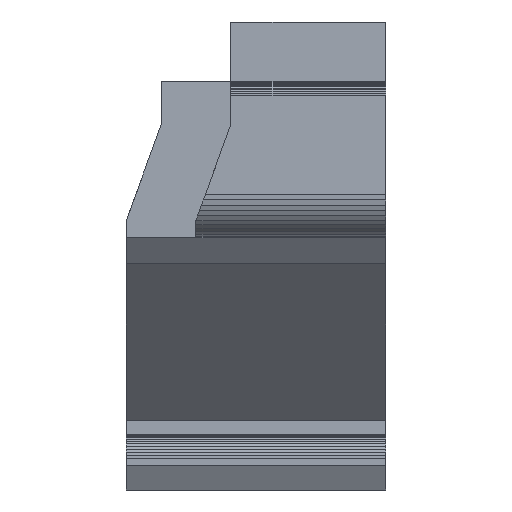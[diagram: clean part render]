
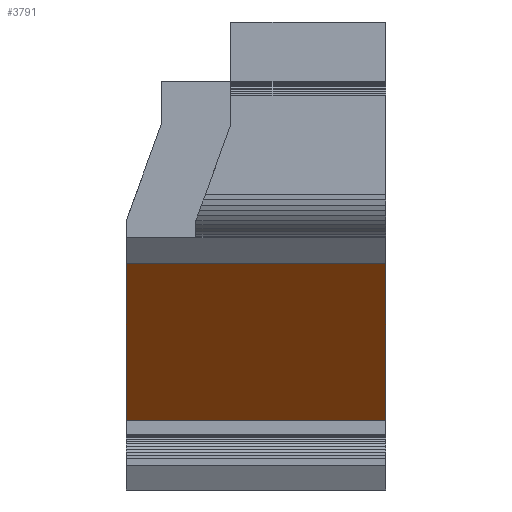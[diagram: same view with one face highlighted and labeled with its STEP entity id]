
A CAD part, front view. The second image highlights one B-rep face of the part: STEP entity #3791.
In plain terms, the highlighted planar face has unit normal (0, -0.707, -0.707).
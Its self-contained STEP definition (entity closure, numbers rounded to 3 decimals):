
#32 = PLANE('',#33);
#33 = AXIS2_PLACEMENT_3D('',#34,#35,#36);
#34 = CARTESIAN_POINT('',(15.,135.,-0.1));
#35 = DIRECTION('',(1.,0.,-0.));
#36 = DIRECTION('',(0.,0.,1.));
#861 = VERTEX_POINT('',#862);
#862 = CARTESIAN_POINT('',(15.,156.995,13.005));
#875 = PLANE('',#876);
#876 = AXIS2_PLACEMENT_3D('',#877,#878,#879);
#877 = CARTESIAN_POINT('',(-126.7,156.995,13.005));
#878 = DIRECTION('',(-0.,-0.777,-0.63));
#879 = DIRECTION('',(0.,-0.63,0.777));
#886 = EDGE_CURVE('',#861,#887,#889,.T.);
#887 = VERTEX_POINT('',#888);
#888 = CARTESIAN_POINT('',(15.,166.,4.));
#889 = SURFACE_CURVE('',#890,(#894,#900),.PCURVE_S1.);
#890 = LINE('',#891,#892);
#891 = CARTESIAN_POINT('',(15.,159.275,10.725));
#892 = VECTOR('',#893,1.);
#893 = DIRECTION('',(-0.,0.707,-0.707));
#894 = PCURVE('',#32,#895);
#895 = DEFINITIONAL_REPRESENTATION('',(#896),#899);
#896 = B_SPLINE_CURVE_WITH_KNOTS('',1,(#897,#898),.UNSPECIFIED.,.F.,.F.,
  (2,2),(-3.225,9.511),.PIECEWISE_BEZIER_KNOTS.);
#897 = CARTESIAN_POINT('',(13.105,-21.995));
#898 = CARTESIAN_POINT('',(4.1,-31.));
#899 = ( GEOMETRIC_REPRESENTATION_CONTEXT(2) 
PARAMETRIC_REPRESENTATION_CONTEXT() REPRESENTATION_CONTEXT('2D SPACE',''
  ) );
#900 = PCURVE('',#901,#906);
#901 = PLANE('',#902);
#902 = AXIS2_PLACEMENT_3D('',#903,#904,#905);
#903 = CARTESIAN_POINT('',(-126.7,166.,4.));
#904 = DIRECTION('',(-0.,-0.707,-0.707));
#905 = DIRECTION('',(0.,-0.707,0.707));
#906 = DEFINITIONAL_REPRESENTATION('',(#907),#910);
#907 = B_SPLINE_CURVE_WITH_KNOTS('',1,(#908,#909),.UNSPECIFIED.,.F.,.F.,
  (2,2),(-3.225,9.511),.PIECEWISE_BEZIER_KNOTS.);
#908 = CARTESIAN_POINT('',(12.735,-141.7));
#909 = CARTESIAN_POINT('',(0.,-141.7));
#910 = ( GEOMETRIC_REPRESENTATION_CONTEXT(2) 
PARAMETRIC_REPRESENTATION_CONTEXT() REPRESENTATION_CONTEXT('2D SPACE',''
  ) );
#927 = PLANE('',#928);
#928 = AXIS2_PLACEMENT_3D('',#929,#930,#931);
#929 = CARTESIAN_POINT('',(168.,166.,2.8));
#930 = DIRECTION('',(0.,-1.,0.));
#931 = DIRECTION('',(-1.,0.,0.));
#2348 = PLANE('',#2349);
#2349 = AXIS2_PLACEMENT_3D('',#2350,#2351,#2352);
#2350 = CARTESIAN_POINT('',(0.1,167.9,8.9));
#2351 = DIRECTION('',(-1.,0.,0.));
#2352 = DIRECTION('',(0.,-1.,0.));
#3752 = EDGE_CURVE('',#887,#3753,#3755,.T.);
#3753 = VERTEX_POINT('',#3754);
#3754 = CARTESIAN_POINT('',(0.1,166.,4.));
#3755 = SURFACE_CURVE('',#3756,(#3759,#3765),.PCURVE_S1.);
#3756 = B_SPLINE_CURVE_WITH_KNOTS('',1,(#3757,#3758),.UNSPECIFIED.,.F.,
  .F.,(2,2),(0.,1.),.PIECEWISE_BEZIER_KNOTS.);
#3757 = CARTESIAN_POINT('',(126.7,166.,4.));
#3758 = CARTESIAN_POINT('',(-126.7,166.,4.));
#3759 = PCURVE('',#927,#3760);
#3760 = DEFINITIONAL_REPRESENTATION('',(#3761),#3764);
#3761 = B_SPLINE_CURVE_WITH_KNOTS('',1,(#3762,#3763),.UNSPECIFIED.,.F.,
  .F.,(2,2),(0.,1.),.PIECEWISE_BEZIER_KNOTS.);
#3762 = CARTESIAN_POINT('',(41.3,-1.2));
#3763 = CARTESIAN_POINT('',(294.7,-1.2));
#3764 = ( GEOMETRIC_REPRESENTATION_CONTEXT(2) 
PARAMETRIC_REPRESENTATION_CONTEXT() REPRESENTATION_CONTEXT('2D SPACE',''
  ) );
#3765 = PCURVE('',#901,#3766);
#3766 = DEFINITIONAL_REPRESENTATION('',(#3767),#3770);
#3767 = B_SPLINE_CURVE_WITH_KNOTS('',1,(#3768,#3769),.UNSPECIFIED.,.F.,
  .F.,(2,2),(0.,1.),.PIECEWISE_BEZIER_KNOTS.);
#3768 = CARTESIAN_POINT('',(0.,-253.4));
#3769 = CARTESIAN_POINT('',(0.,0.));
#3770 = ( GEOMETRIC_REPRESENTATION_CONTEXT(2) 
PARAMETRIC_REPRESENTATION_CONTEXT() REPRESENTATION_CONTEXT('2D SPACE',''
  ) );
#3791 = ADVANCED_FACE('',(#3792),#901,.T.);
#3792 = FACE_BOUND('',#3793,.T.);
#3793 = EDGE_LOOP('',(#3794,#3795,#3796,#3816));
#3794 = ORIENTED_EDGE('',*,*,#3752,.F.);
#3795 = ORIENTED_EDGE('',*,*,#886,.F.);
#3796 = ORIENTED_EDGE('',*,*,#3797,.T.);
#3797 = EDGE_CURVE('',#861,#3798,#3800,.T.);
#3798 = VERTEX_POINT('',#3799);
#3799 = CARTESIAN_POINT('',(0.1,156.995,13.005));
#3800 = SURFACE_CURVE('',#3801,(#3804,#3810),.PCURVE_S1.);
#3801 = B_SPLINE_CURVE_WITH_KNOTS('',1,(#3802,#3803),.UNSPECIFIED.,.F.,
  .F.,(2,2),(0.,1.),.PIECEWISE_BEZIER_KNOTS.);
#3802 = CARTESIAN_POINT('',(126.7,156.995,13.005));
#3803 = CARTESIAN_POINT('',(-126.7,156.995,13.005));
#3804 = PCURVE('',#901,#3805);
#3805 = DEFINITIONAL_REPRESENTATION('',(#3806),#3809);
#3806 = B_SPLINE_CURVE_WITH_KNOTS('',1,(#3807,#3808),.UNSPECIFIED.,.F.,
  .F.,(2,2),(0.,1.),.PIECEWISE_BEZIER_KNOTS.);
#3807 = CARTESIAN_POINT('',(12.735,-253.4));
#3808 = CARTESIAN_POINT('',(12.735,0.));
#3809 = ( GEOMETRIC_REPRESENTATION_CONTEXT(2) 
PARAMETRIC_REPRESENTATION_CONTEXT() REPRESENTATION_CONTEXT('2D SPACE',''
  ) );
#3810 = PCURVE('',#875,#3811);
#3811 = DEFINITIONAL_REPRESENTATION('',(#3812),#3815);
#3812 = B_SPLINE_CURVE_WITH_KNOTS('',1,(#3813,#3814),.UNSPECIFIED.,.F.,
  .F.,(2,2),(0.,1.),.PIECEWISE_BEZIER_KNOTS.);
#3813 = CARTESIAN_POINT('',(0.,-253.4));
#3814 = CARTESIAN_POINT('',(0.,0.));
#3815 = ( GEOMETRIC_REPRESENTATION_CONTEXT(2) 
PARAMETRIC_REPRESENTATION_CONTEXT() REPRESENTATION_CONTEXT('2D SPACE',''
  ) );
#3816 = ORIENTED_EDGE('',*,*,#3817,.T.);
#3817 = EDGE_CURVE('',#3798,#3753,#3818,.T.);
#3818 = SURFACE_CURVE('',#3819,(#3823,#3829),.PCURVE_S1.);
#3819 = LINE('',#3820,#3821);
#3820 = CARTESIAN_POINT('',(0.1,165.25,4.75));
#3821 = VECTOR('',#3822,1.);
#3822 = DIRECTION('',(0.,0.707,-0.707));
#3823 = PCURVE('',#901,#3824);
#3824 = DEFINITIONAL_REPRESENTATION('',(#3825),#3828);
#3825 = B_SPLINE_CURVE_WITH_KNOTS('',1,(#3826,#3827),.UNSPECIFIED.,.F.,
  .F.,(2,2),(-11.675,1.061),.PIECEWISE_BEZIER_KNOTS.);
#3826 = CARTESIAN_POINT('',(12.735,-126.8));
#3827 = CARTESIAN_POINT('',(0.,-126.8));
#3828 = ( GEOMETRIC_REPRESENTATION_CONTEXT(2) 
PARAMETRIC_REPRESENTATION_CONTEXT() REPRESENTATION_CONTEXT('2D SPACE',''
  ) );
#3829 = PCURVE('',#2348,#3830);
#3830 = DEFINITIONAL_REPRESENTATION('',(#3831),#3834);
#3831 = B_SPLINE_CURVE_WITH_KNOTS('',1,(#3832,#3833),.UNSPECIFIED.,.F.,
  .F.,(2,2),(-11.675,1.061),.PIECEWISE_BEZIER_KNOTS.);
#3832 = CARTESIAN_POINT('',(10.905,4.105));
#3833 = CARTESIAN_POINT('',(1.9,-4.9));
#3834 = ( GEOMETRIC_REPRESENTATION_CONTEXT(2) 
PARAMETRIC_REPRESENTATION_CONTEXT() REPRESENTATION_CONTEXT('2D SPACE',''
  ) );
